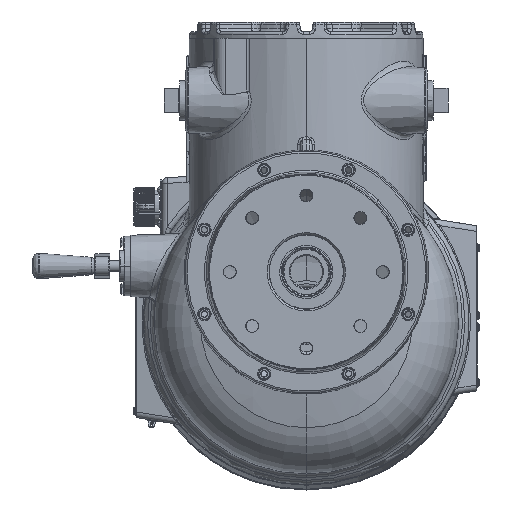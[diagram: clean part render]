
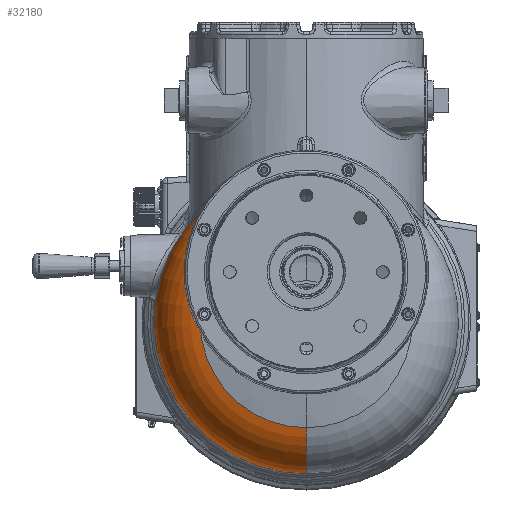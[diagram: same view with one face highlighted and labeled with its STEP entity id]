
A CAD part, front view. The second image highlights one B-rep face of the part: STEP entity #32180.
In plain terms, the highlighted toroidal (fillet/blend) face has major radius 75.438 mm and minor radius 50.8 mm.
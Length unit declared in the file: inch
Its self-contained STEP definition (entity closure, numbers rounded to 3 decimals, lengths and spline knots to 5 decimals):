
#6862 = CARTESIAN_POINT ( 'NONE',  ( -3.00536, -7.36458, 3.8522 ) ) ;
#8602 = CARTESIAN_POINT ( 'NONE',  ( -2.86616, -8.31295, 3.16437 ) ) ;
#8638 = ORIENTED_EDGE ( 'NONE', *, *, #180834, .F. ) ;
#12208 = CARTESIAN_POINT ( 'NONE',  ( 0., -6.78953, 0. ) ) ;
#23651 = CARTESIAN_POINT ( 'NONE',  ( -2.24723, -8.00686, 3.96574 ) ) ;
#25331 = CARTESIAN_POINT ( 'NONE',  ( -3.20114, -8.45056, 2.53769 ) ) ;
#26324 = CARTESIAN_POINT ( 'NONE',  ( -2.10837, -8.09051, 3.96309 ) ) ;
#27302 = CARTESIAN_POINT ( 'NONE',  ( -3.06589, -8.39055, 2.82486 ) ) ;
#29369 = EDGE_CURVE ( 'NONE', #143457, #195292, #32527, .T. ) ;
#29922 = EDGE_CURVE ( 'NONE', #29998, #137881, #149713, .T. ) ;
#29998 = VERTEX_POINT ( 'NONE', #33743 ) ;
#32180 = ADVANCED_FACE ( 'NONE', ( #57613 ), #171814, .T. ) ;
#32527 = B_SPLINE_CURVE_WITH_KNOTS ( 'NONE', 3,
 ( #144305, #191721, #23651, #172991, #38449, #83934, #114564, #190736, #37484, #161086, #6862, #115540, #85859, #128505, #145263, #98792 ),
 .UNSPECIFIED., .F., .F.,
 ( 4, 2, 2, 2, 2, 2, 2, 4 ),
 ( 0., 0.00617, 0.01234, 0.02468, 0.02777, 0.03085, 0.03702, 0.04936 ),
 .UNSPECIFIED. ) ;
#33508 = CARTESIAN_POINT ( 'NONE',  ( -2.10837, -8.09051, 3.96309 ) ) ;
#33743 = CARTESIAN_POINT ( 'NONE',  ( 0., -6.78953, -4.97 ) ) ;
#34558 = ORIENTED_EDGE ( 'NONE', *, *, #29369, .T. ) ;
#37484 = CARTESIAN_POINT ( 'NONE',  ( -2.92475, -7.45109, 3.87858 ) ) ;
#38449 = CARTESIAN_POINT ( 'NONE',  ( -2.44637, -7.87035, 3.95929 ) ) ;
#42115 = CARTESIAN_POINT ( 'NONE',  ( -2.95152, -8.34437, 3.03251 ) ) ;
#44433 = AXIS2_PLACEMENT_3D ( 'NONE', #118307, #120275, #91612 ) ;
#55976 = CARTESIAN_POINT ( 'NONE',  ( -2.5734, -8.21723, 3.53374 ) ) ;
#57536 = DIRECTION ( 'NONE',  ( -1., 0., 0. ) ) ;
#57613 = FACE_OUTER_BOUND ( 'NONE', #169864, .T. ) ;
#57931 = CARTESIAN_POINT ( 'NONE',  ( -2.23409, -8.12122, 3.86643 ) ) ;
#68866 = CARTESIAN_POINT ( 'NONE',  ( -2.35264, -8.15288, 3.7616 ) ) ;
#69830 = CARTESIAN_POINT ( 'NONE',  ( -3.11951, -8.41339, 2.71839 ) ) ;
#72455 = DIRECTION ( 'NONE',  ( 0., 1., 0. ) ) ;
#72762 = CARTESIAN_POINT ( 'NONE',  ( -2.72522, -8.26528, 3.35293 ) ) ;
#78211 = VERTEX_POINT ( 'NONE', #147959 ) ;
#80089 = AXIS2_PLACEMENT_3D ( 'NONE', #192089, #57536, #161441 ) ;
#81258 = CARTESIAN_POINT ( 'NONE',  ( -3.43083, -6.78953, 3.59587 ) ) ;
#83934 = CARTESIAN_POINT ( 'NONE',  ( -2.63659, -7.7244, 3.9427 ) ) ;
#85859 = CARTESIAN_POINT ( 'NONE',  ( -3.13191, -7.21762, 3.80073 ) ) ;
#86627 = CARTESIAN_POINT ( 'NONE',  ( -3.43074, -8.596, 1.69941 ) ) ;
#87614 = CARTESIAN_POINT ( 'NONE',  ( -3.47044, -8.66137, 1.22305 ) ) ;
#90195 = B_SPLINE_CURVE_WITH_KNOTS ( 'NONE', 3,
 ( #97587, #157960, #113383, #87614, #175684, #99525, #133093, #86627, #102438, #159885, #178593, #174705, #162828, #25331, #177609, #69830, #193456, #27302, #100478, #42115, #8602, #72762, #118235, #55976, #132136, #68866, #57931, #26324 ),
 .UNSPECIFIED., .F., .F.,
 ( 4, 2, 2, 2, 2, 2, 2, 2, 2, 2, 2, 2, 2, 4 ),
 ( 0., 0.01219, 0.02439, 0.02744, 0.03049, 0.03658, 0.04878, 0.05488, 0.05793, 0.06097, 0.07317, 0.07927, 0.08536, 0.09756 ),
 .UNSPECIFIED. ) ;
#91612 = DIRECTION ( 'NONE',  ( 0., 0., 1. ) ) ;
#97587 = CARTESIAN_POINT ( 'NONE',  ( -3.41492, -8.7273, 0.58697 ) ) ;
#98792 = CARTESIAN_POINT ( 'NONE',  ( -3.43083, -6.78953, 3.59587 ) ) ;
#99525 = CARTESIAN_POINT ( 'NONE',  ( -3.44593, -8.61336, 1.58037 ) ) ;
#100478 = CARTESIAN_POINT ( 'NONE',  ( -3.04729, -8.38289, 2.8598 ) ) ;
#100627 = EDGE_CURVE ( 'NONE', #78211, #143457, #90195, .T. ) ;
#102438 = CARTESIAN_POINT ( 'NONE',  ( -3.42476, -8.59004, 1.73907 ) ) ;
#102469 = EDGE_CURVE ( 'NONE', #78211, #137881, #185862, .T. ) ;
#111079 = ORIENTED_EDGE ( 'NONE', *, *, #29922, .T. ) ;
#111817 = AXIS2_PLACEMENT_3D ( 'NONE', #12208, #72455, #135699 ) ;
#113383 = CARTESIAN_POINT ( 'NONE',  ( -3.45888, -8.69751, 0.90515 ) ) ;
#113410 = CARTESIAN_POINT ( 'NONE',  ( 0., -8.7273, 0. ) ) ;
#114564 = CARTESIAN_POINT ( 'NONE',  ( -2.7563, -7.61965, 3.92333 ) ) ;
#115540 = CARTESIAN_POINT ( 'NONE',  ( -3.08279, -7.27694, 3.82278 ) ) ;
#117734 = ORIENTED_EDGE ( 'NONE', *, *, #100627, .T. ) ;
#118235 = CARTESIAN_POINT ( 'NONE',  ( -2.67607, -8.2493, 3.41424 ) ) ;
#118307 = CARTESIAN_POINT ( 'NONE',  ( 0., -6.78953, 0. ) ) ;
#120275 = DIRECTION ( 'NONE',  ( 0., 1., 0. ) ) ;
#121229 = ORIENTED_EDGE ( 'NONE', *, *, #102469, .F. ) ;
#128298 = DIRECTION ( 'NONE',  ( 0., 0., 1. ) ) ;
#128505 = CARTESIAN_POINT ( 'NONE',  ( -3.27204, -7.03744, 3.72686 ) ) ;
#132136 = CARTESIAN_POINT ( 'NONE',  ( -2.51982, -8.20112, 3.59199 ) ) ;
#133093 = CARTESIAN_POINT ( 'NONE',  ( -3.44133, -8.60767, 1.62005 ) ) ;
#135699 = DIRECTION ( 'NONE',  ( 0., 0., 1. ) ) ;
#137881 = VERTEX_POINT ( 'NONE', #195018 ) ;
#143457 = VERTEX_POINT ( 'NONE', #33508 ) ;
#144305 = CARTESIAN_POINT ( 'NONE',  ( -2.10837, -8.09051, 3.96309 ) ) ;
#145060 = DIRECTION ( 'NONE',  ( 0., -1., 0. ) ) ;
#145263 = CARTESIAN_POINT ( 'NONE',  ( -3.35589, -6.91433, 3.66738 ) ) ;
#147959 = CARTESIAN_POINT ( 'NONE',  ( -3.41492, -8.7273, 0.58697 ) ) ;
#149713 = CIRCLE ( 'NONE', #80089, 2. ) ;
#157574 = AXIS2_PLACEMENT_3D ( 'NONE', #113410, #145060, #128298 ) ;
#157960 = CARTESIAN_POINT ( 'NONE',  ( -3.44244, -8.71349, 0.74611 ) ) ;
#159885 = CARTESIAN_POINT ( 'NONE',  ( -3.40489, -8.57189, 1.85719 ) ) ;
#161086 = CARTESIAN_POINT ( 'NONE',  ( -2.97892, -7.39358, 3.86139 ) ) ;
#161441 = DIRECTION ( 'NONE',  ( 0., 0., -1. ) ) ;
#162828 = CARTESIAN_POINT ( 'NONE',  ( -3.28682, -8.49352, 2.31677 ) ) ;
#169864 = EDGE_LOOP ( 'NONE', ( #117734, #34558, #8638, #111079, #121229 ) ) ;
#171814 = TOROIDAL_SURFACE ( 'NONE', #111817, 2.97, 2. ) ;
#172991 = CARTESIAN_POINT ( 'NONE',  ( -2.38119, -7.91713, 3.96273 ) ) ;
#174705 = CARTESIAN_POINT ( 'NONE',  ( -3.3338, -8.52077, 2.16613 ) ) ;
#175684 = CARTESIAN_POINT ( 'NONE',  ( -3.46556, -8.6412, 1.38191 ) ) ;
#176989 = CIRCLE ( 'NONE', #44433, 4.97 ) ;
#177609 = CARTESIAN_POINT ( 'NONE',  ( -3.17004, -8.4359, 2.61048 ) ) ;
#178593 = CARTESIAN_POINT ( 'NONE',  ( -3.38903, -8.55939, 1.93506 ) ) ;
#180834 = EDGE_CURVE ( 'NONE', #29998, #195292, #176989, .T. ) ;
#185862 = CIRCLE ( 'NONE', #157574, 3.465 ) ;
#190736 = CARTESIAN_POINT ( 'NONE',  ( -2.897, -7.47962, 3.88659 ) ) ;
#191721 = CARTESIAN_POINT ( 'NONE',  ( -2.17839, -8.04985, 3.96529 ) ) ;
#192089 = CARTESIAN_POINT ( 'NONE',  ( 0., -6.78953, -2.97 ) ) ;
#193456 = CARTESIAN_POINT ( 'NONE',  ( -3.10199, -8.4058, 2.75418 ) ) ;
#195018 = CARTESIAN_POINT ( 'NONE',  ( 0., -8.7273, -3.465 ) ) ;
#195292 = VERTEX_POINT ( 'NONE', #81258 ) ;
